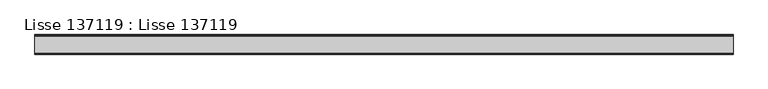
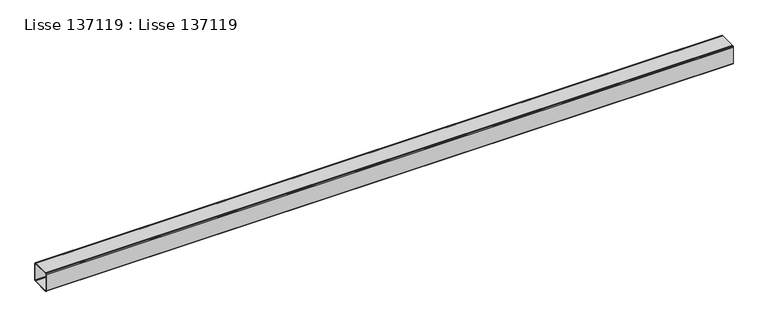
"""IFC4 building model written with IfcOpenShell, lengths in millimetres: beam geometry, Lisse 137119 : Lisse 137119."""

from ifc_helpers import new_model, si_unit, frame, origin, place, context, project, spatial, polyline, outline, extrude, source, transform, mapped, element, save


def lisse_137119_lisse_137119_684511ae(model_context):
    return source(origin(), model_context, "Body", "SweptSolid", [
        extrude(outline(polyline([(94.1961524, 3103.0), (92.0, 3100.8038476), (89.0, 3100.0), (1.0, 3100.0), (-2.0, 3100.8038476), (-4.1961524, 3103.0), (-5.0, 3106.0), (-5.0, 3194.0), (-4.1961524, 3197.0), (-2.0, 3199.1961524), (1.0, 3200.0), (89.0, 3200.0), (92.0, 3199.1961524), (94.1961524, 3197.0), (95.0, 3194.0), (95.0, 3106.0), (94.1961524, 3103.0)]), holes=[polyline([(90.4641016, 3194.0), (89.0, 3195.4641016), (87.0, 3196.0), (3.0, 3196.0), (1.0, 3195.4641016), (-0.4641016, 3194.0), (-1.0, 3192.0), (-1.0, 3108.0), (-0.4641016, 3106.0), (1.0, 3104.5358984), (3.0, 3104.0), (87.0, 3104.0), (89.0, 3104.5358984), (90.4641016, 3106.0), (91.0, 3108.0), (91.0, 3192.0), (90.4641016, 3194.0)])]), frame((92.8791579, 0.0, 0.0), z_axis=(1.0, 0.0, 0.0), x_axis=(0.0, 1.0, 0.0)), (0.0, 0.0, 1.0), 3559.620842),
    ])


if __name__ == "__main__":
    model = new_model("IFC4")
    model_context = context("Model", 3, world=origin())
    ifc_project = project(units=[si_unit("LENGTHUNIT", "METRE", prefix="MILLI")], contexts=[model_context])
    site = spatial("IfcSite", under=ifc_project)
    building = spatial("IfcBuilding", under=site)
    placement = place(None, origin())
    lisse_137119_lisse_137119_shape = lisse_137119_lisse_137119_684511ae(model_context)
    element("IfcBeam", 1, ObjectType="Lisse 137119 : Lisse 137119", at=placement, inside=building, context=model_context, shape_type="MappedRepresentation", body=[
        mapped(lisse_137119_lisse_137119_shape, transform((0.0, 0.0, 0.0), x_axis=(1.0, 0.0, 0.0), y_axis=(0.0, 1.0, 0.0), z_axis=(0.0, 0.0, 1.0))),
    ])
    save(model, "model.ifc")
